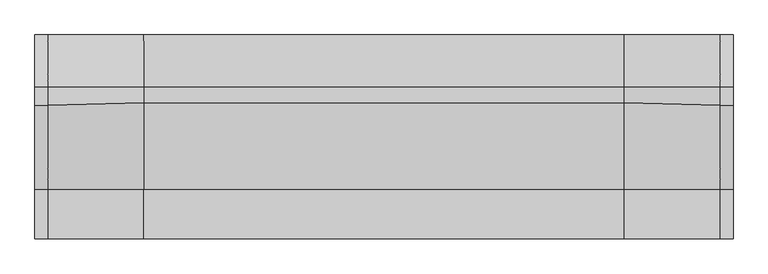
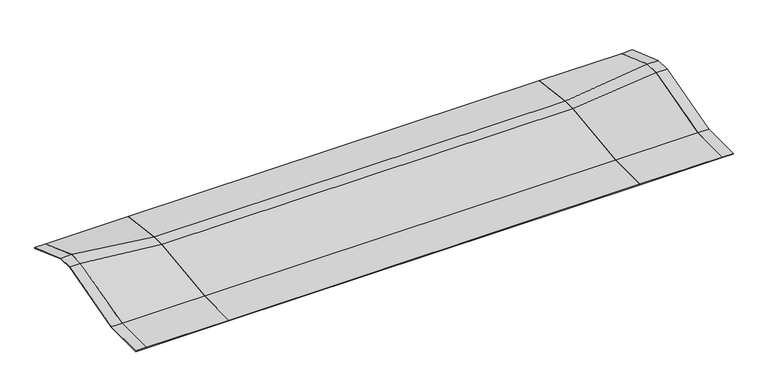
"""IFC4 building model written with IfcOpenShell, lengths in millimetres: geographic element geometry, アスファルトコンクリート : アスファルトコンクリート."""

from ifc_helpers import new_model, si_unit, frame, origin, place, context, project, spatial, polyline, outline, extrude, source, transform, mapped, element, save
from ifc_brep_helpers import plane_surface, spline_surface, advanced_brep


def geographic_element_bd88e46c(model_context):
    return source(origin(), model_context, "Body", "SolidModel", [
        extrude(outline(polyline([(648.68948, 15563.0), (7650.0, 15563.0), (28452.0, 8200.0), (28452.0, 7828.7219041), (7589.884972, 15213.0), (695.3319423, 15213.0), (-32704.6680577, 6150.0), (-52250.0, 6150.0), (-52250.0, 6500.0), (-32751.31052, 6500.0), (648.68948, 15563.0)])), frame((143250.0, 0.0, 0.0), z_axis=(1.0, 0.0, 0.0), x_axis=(0.0, 1.0, 0.0)), (0.0, 0.0, 1.0), 5000.0),
        advanced_brep(
        [(143250.0, 7650.0, 15563.0), (143250.0, 648.68948, 15563.0), (143250.0, -32751.31052, 6500.0), (143250.0, -52250.0, 6500.0), (143250.0, -52250.0, 6150.0), (143250.0, -32704.6680577, 6150.0), (143250.0, 695.3319423, 15213.0), (143250.0, 7589.884972, 15213.0), (143250.0, 28452.0, 7828.7219041), (143250.0, 28452.0, 8200.0), (105146.0, 7650.0, 10800.0), (105146.0, 28452.0, 8200.0), (105146.0, 28452.0, 7847.2767452), (105146.0, 7628.2118669, 10450.0), (105146.0, 1671.7902119, 10450.0), (105146.0, -32728.2097881, 6150.0), (105146.0, -52250.0, 6150.0), (105146.0, -52250.0, 6500.0), (105146.0, -32750.0, 6500.0), (105146.0, 1650.0, 10800.0)],
        [
            (0, 1),
            (1, 2),
            (2, 3),
            (3, 4),
            (4, 5),
            (5, 6),
            (6, 7),
            (7, 8),
            (8, 9),
            (9, 0),
            (10, 11),
            (11, 12),
            (12, 13),
            (13, 14),
            (14, 15),
            (15, 16),
            (16, 17),
            (17, 18),
            (18, 19),
            (19, 10),
            (19, 1),
            (0, 10),
            (18, 2),
            (17, 3),
            (16, 4),
            (15, 5),
            (14, 6),
            (13, 7),
            (12, 8),
            (11, 9),
        ],
        [
            plane_surface(frame((143250.0, -9646.8072183, 10288.0721904), z_axis=(1.0, 0.0, 0.0), x_axis=(0.0, -0.9651010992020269, -0.26187758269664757))),
            plane_surface(frame((105146.0, -9447.4207709, 8384.7276745), z_axis=(-1.0, 0.0, 0.0), x_axis=(0.0, -0.9651010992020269, -0.26187758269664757))),
            plane_surface(frame((105146.0, 4650.0, 10800.0), z_axis=(-0.12403473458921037, 0.0, 0.9922778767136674), x_axis=(0.0, -1.0, 0.0))),
            spline_surface(1, 1, [[(105146.0, 1650.0, 10800.0), (143250.0, 648.68948, 15563.0)], [(105146.0, -32750.0, 6500.0), (143250.0, -32751.31052, 6500.0)]], [2, 2], [2, 2], [0.0, 1.0], [0.0, 1.0]),
            plane_surface(frame((105146.0, -42500.0, 6500.0), z_axis=(0.0, 0.0, 1.0), x_axis=(0.0, -1.0, 0.0))),
            plane_surface(frame((105146.0, -52250.0, 6325.0), z_axis=(0.0, -1.0, 0.0), x_axis=(0.0, 0.0, -1.0))),
            plane_surface(frame((105146.0, -42489.104894, 6150.0), z_axis=(0.0, 0.0, -1.0), x_axis=(0.0, 1.0, 0.0))),
            spline_surface(1, 1, [[(105146.0, -32728.2097881, 6150.0), (143250.0, -32704.6680577, 6150.0)], [(105146.0, 1671.7902119, 10450.0), (143250.0, 695.3319423, 15213.0)]], [2, 2], [2, 2], [0.0, 1.0], [0.0, 1.0]),
            plane_surface(frame((105146.0, 4650.0010394, 10450.0), z_axis=(0.12403473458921, 0.0, -0.9922778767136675), x_axis=(0.0, 1.0, 0.0))),
            spline_surface(1, 1, [[(105146.0, 7628.2118669, 10450.0), (143250.0, 7589.884972, 15213.0)], [(105146.0, 28452.0, 7847.2767452), (143250.0, 28452.0, 7828.7219041)]], [2, 2], [2, 2], [0.0, 1.0], [0.0, 1.0]),
            plane_surface(frame((105146.0, 28452.0, 8023.6383726), z_axis=(0.0, 1.0, 0.0), x_axis=(0.0, 0.0, 1.0))),
            spline_surface(1, 1, [[(105146.0, 28452.0, 8200.0), (143250.0, 28452.0, 8200.0)], [(105146.0, 7650.0, 10800.0), (143250.0, 7650.0, 15563.0)]], [2, 2], [2, 2], [0.0, 1.0], [0.0, 1.0]),
        ],
        [
            (0, [[1, 2, 3, 4, 5, 6, 7, 8, 9, 10]]),
            (1, [[11, 12, 13, 14, 15, 16, 17, 18, 19, 20]]),
            (2, [[-20, 21, -1, 22]]),
            (3, [[-19, 23, -2, -21]]),
            (4, [[-18, 24, -3, -23]]),
            (5, [[-17, 25, -4, -24]]),
            (6, [[-16, 26, -5, -25]]),
            (7, [[-15, 27, -6, -26]]),
            (8, [[-14, 28, -7, -27]]),
            (9, [[-13, 29, -8, -28]]),
            (10, [[-12, 30, -9, -29]]),
            (11, [[-11, -22, -10, -30]]),
        ],
    ),
        extrude(outline(polyline([(7650.0, 10800.0), (28452.0, 8200.0), (28452.0, 7847.2767452), (7628.2118669, 10450.0), (1671.7902119, 10450.0), (-32728.2097881, 6150.0), (-52250.0, 6150.0), (-52250.0, 6500.0), (-32750.0, 6500.0), (1650.0, 10800.0), (7650.0, 10800.0)])), frame((-84854.0, 0.0, 0.0), z_axis=(1.0, 0.0, 0.0), x_axis=(0.0, 1.0, 0.0)), (0.0, 0.0, 1.0), 190000.0),
        extrude(outline(polyline([(7650.0, 15563.0), (28452.0, 8200.0), (28452.0, 7828.7219041), (7589.884972, 15213.0), (695.3319423, 15213.0), (-32704.6680577, 6150.0), (-52250.0, 6150.0), (-52250.0, 6500.0), (-32751.31052, 6500.0), (648.68948, 15563.0), (7650.0, 15563.0)])), frame((-127958.0, 0.0, 0.0), z_axis=(1.0, 0.0, 0.0), x_axis=(0.0, 1.0, 0.0)), (0.0, 0.0, 1.0), 5000.0),
        advanced_brep(
        [(-84854.0, 7650.0, 10800.0), (-84854.0, 1650.0, 10800.0), (-84854.0, -32750.0, 6500.0), (-84854.0, -52250.0, 6500.0), (-84854.0, -52250.0, 6150.0), (-84854.0, -32728.2097881, 6150.0), (-84854.0, 1671.7902119, 10450.0), (-84854.0, 7628.2118669, 10450.0), (-84854.0, 28452.0, 7847.2767452), (-84854.0, 28452.0, 8200.0), (-122958.0, 7650.0, 15563.0), (-122958.0, 28452.0, 8200.0), (-122958.0, 28452.0, 7828.7219041), (-122958.0, 7589.884972, 15213.0), (-122958.0, 695.3319423, 15213.0), (-122958.0, -32704.6680577, 6150.0), (-122958.0, -52250.0, 6150.0), (-122958.0, -52250.0, 6500.0), (-122958.0, -32751.31052, 6500.0), (-122958.0, 648.68948, 15563.0)],
        [
            (0, 1),
            (1, 2),
            (2, 3),
            (3, 4),
            (4, 5),
            (5, 6),
            (6, 7),
            (7, 8),
            (8, 9),
            (9, 0),
            (10, 11),
            (11, 12),
            (12, 13),
            (13, 14),
            (14, 15),
            (15, 16),
            (16, 17),
            (17, 18),
            (18, 19),
            (19, 10),
            (10, 0),
            (9, 11),
            (8, 12),
            (7, 13),
            (6, 14),
            (5, 15),
            (4, 16),
            (3, 17),
            (2, 18),
            (1, 19),
        ],
        [
            plane_surface(frame((-84854.0, -9447.4207709, 8384.7276745), z_axis=(1.0, 0.0, 0.0), x_axis=(0.0, 1.0, 0.0))),
            plane_surface(frame((-122958.0, -9646.8072183, 10288.0721904), z_axis=(-1.0, 0.0, 0.0), x_axis=(0.0, 1.0, 0.0))),
            spline_surface(1, 1, [[(-122958.0, 28452.0, 8200.0), (-84854.0, 28452.0, 8200.0)], [(-122958.0, 7650.0, 15563.0), (-84854.0, 7650.0, 10800.0)]], [2, 2], [2, 2], [0.0, 1.0], [0.0, 1.0]),
            plane_surface(frame((-122958.0, 28452.0, 8014.360952), z_axis=(0.0, 1.0, 0.0), x_axis=(0.0, 0.0, 1.0))),
            spline_surface(1, 1, [[(-122958.0, 7589.884972, 15213.0), (-84854.0, 7628.2118669, 10450.0)], [(-122958.0, 28452.0, 7828.7219041), (-84854.0, 28452.0, 7847.2767452)]], [2, 2], [2, 2], [0.0, 1.0], [0.0, 1.0]),
            plane_surface(frame((-122958.0, 4142.6084572, 15213.0), z_axis=(-0.12403473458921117, 0.0, -0.9922778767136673), x_axis=(0.0, 1.0, 0.0))),
            spline_surface(1, 1, [[(-122958.0, -32704.6680577, 6150.0), (-84854.0, -32728.2097881, 6150.0)], [(-122958.0, 695.3319423, 15213.0), (-84854.0, 1671.7902119, 10450.0)]], [2, 2], [2, 2], [0.0, 1.0], [0.0, 1.0]),
            plane_surface(frame((-122958.0, -42477.3340288, 6150.0), z_axis=(0.0, 0.0, -1.0), x_axis=(0.0, 1.0, 0.0))),
            plane_surface(frame((-122958.0, -52250.0, 6325.0), z_axis=(0.0, -1.0, 0.0), x_axis=(0.0, 0.0, -1.0))),
            plane_surface(frame((-122958.0, -42500.65526, 6500.0), z_axis=(0.0, 0.0, 1.0), x_axis=(0.0, -1.0, 0.0))),
            spline_surface(1, 1, [[(-122958.0, 648.68948, 15563.0), (-84854.0, 1650.0, 10800.0)], [(-122958.0, -32751.31052, 6500.0), (-84854.0, -32750.0, 6500.0)]], [2, 2], [2, 2], [0.0, 1.0], [0.0, 1.0]),
            plane_surface(frame((-122958.0, 4149.34474, 15563.0), z_axis=(0.12403473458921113, 0.0, 0.9922778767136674), x_axis=(0.0, -1.0, 0.0))),
        ],
        [
            (0, [[1, 2, 3, 4, 5, 6, 7, 8, 9, 10]]),
            (1, [[11, 12, 13, 14, 15, 16, 17, 18, 19, 20]]),
            (2, [[-11, 21, -10, 22]]),
            (3, [[-12, -22, -9, 23]]),
            (4, [[-13, -23, -8, 24]]),
            (5, [[-14, -24, -7, 25]]),
            (6, [[-15, -25, -6, 26]]),
            (7, [[-16, -26, -5, 27]]),
            (8, [[-17, -27, -4, 28]]),
            (9, [[-18, -28, -3, 29]]),
            (10, [[-19, -29, -2, 30]]),
            (11, [[-20, -30, -1, -21]]),
        ],
    ),
    ])


if __name__ == "__main__":
    model = new_model("IFC4")
    model_context = context("Model", 3, world=origin())
    ifc_project = project(units=[si_unit("LENGTHUNIT", "METRE", prefix="MILLI")], contexts=[model_context])
    site = spatial("IfcSite", under=ifc_project)
    building = spatial("IfcBuilding", under=site)
    placement = place(None, origin())
    geographic_element_shape = geographic_element_bd88e46c(model_context)
    element("IfcGeographicElement", 1, ObjectType="アスファルトコンクリート : アスファルトコンクリート", at=placement, inside=building, context=model_context, shape_type="MappedRepresentation", body=[
        mapped(geographic_element_shape, transform((0.0, 0.0, 0.0), x_axis=(1.0, 0.0, 0.0), y_axis=(0.0, 1.0, 0.0), z_axis=(0.0, 0.0, 1.0))),
    ])
    save(model, "model.ifc")
